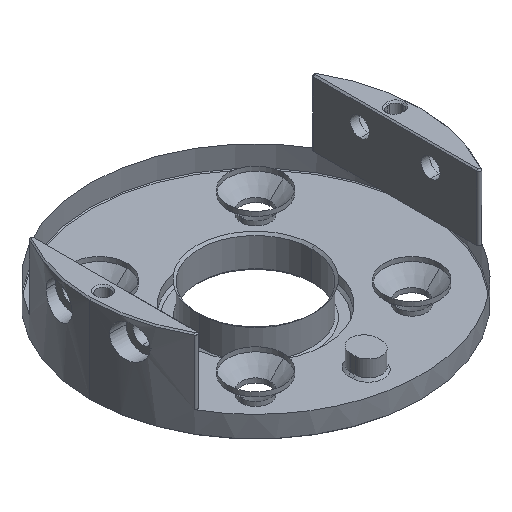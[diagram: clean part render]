
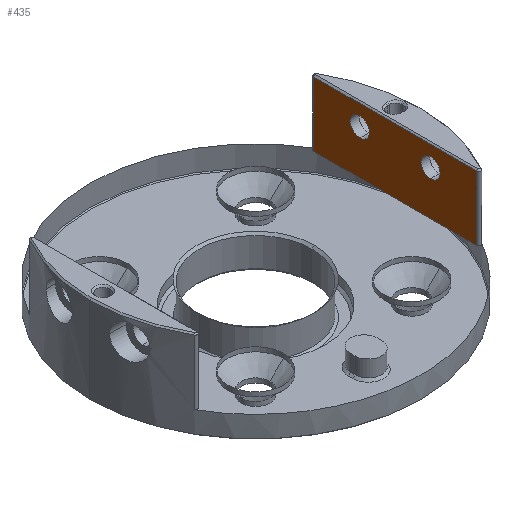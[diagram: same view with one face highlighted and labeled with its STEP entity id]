
A CAD part, isometric view. The second image highlights one B-rep face of the part: STEP entity #435.
In plain terms, the highlighted planar face has unit normal (-1, 0, 0).
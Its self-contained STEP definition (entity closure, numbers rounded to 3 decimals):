
#146 = EDGE_LOOP ( 'NONE', ( #594, #157 ) ) ;
#152 = EDGE_CURVE ( 'NONE', #698, #1493, #1818, .T. ) ;
#157 = ORIENTED_EDGE ( 'NONE', *, *, #954, .T. ) ;
#241 = LINE ( 'NONE', #505, #617 ) ;
#363 = CARTESIAN_POINT ( 'NONE',  ( 31.59, 20.269, 5. ) ) ;
#435 = ADVANCED_FACE ( 'NONE', ( #2393, #2153, #3154 ), #2180, .F. ) ;
#500 = AXIS2_PLACEMENT_3D ( 'NONE', #1026, #2275, #1508 ) ;
#505 = CARTESIAN_POINT ( 'NONE',  ( 31.59, 18.418, 19.6 ) ) ;
#575 = DIRECTION ( 'NONE',  ( 0., 0., -1. ) ) ;
#594 = ORIENTED_EDGE ( 'NONE', *, *, #880, .T. ) ;
#617 = VECTOR ( 'NONE', #1350, 1000. ) ;
#698 = VERTEX_POINT ( 'NONE', #1388 ) ;
#716 = CIRCLE ( 'NONE', #1509, 2.15 ) ;
#755 = VERTEX_POINT ( 'NONE', #1639 ) ;
#802 = CARTESIAN_POINT ( 'NONE',  ( 31.59, 18.418, 5. ) ) ;
#870 = CARTESIAN_POINT ( 'NONE',  ( 31.59, -8., 12.85 ) ) ;
#880 = EDGE_CURVE ( 'NONE', #755, #3189, #1032, .T. ) ;
#951 = CARTESIAN_POINT ( 'NONE',  ( 31.59, -18.418, 5. ) ) ;
#954 = EDGE_CURVE ( 'NONE', #3189, #755, #716, .T. ) ;
#1003 = CARTESIAN_POINT ( 'NONE',  ( 31.59, 8., 15. ) ) ;
#1026 = CARTESIAN_POINT ( 'NONE',  ( 31.59, -8., 15. ) ) ;
#1032 = CIRCLE ( 'NONE', #3027, 2.15 ) ;
#1041 = ORIENTED_EDGE ( 'NONE', *, *, #2571, .T. ) ;
#1073 = VECTOR ( 'NONE', #1157, 1000. ) ;
#1101 = EDGE_LOOP ( 'NONE', ( #2655, #2047 ) ) ;
#1157 = DIRECTION ( 'NONE',  ( 0., -1., 0. ) ) ;
#1340 = EDGE_CURVE ( 'NONE', #1854, #2215, #241, .T. ) ;
#1350 = DIRECTION ( 'NONE',  ( 0., 1., 0. ) ) ;
#1369 = CARTESIAN_POINT ( 'NONE',  ( 31.59, -18.418, 19.9 ) ) ;
#1388 = CARTESIAN_POINT ( 'NONE',  ( 31.59, -8., 17.15 ) ) ;
#1393 = CARTESIAN_POINT ( 'NONE',  ( 31.59, -8., 15. ) ) ;
#1493 = VERTEX_POINT ( 'NONE', #870 ) ;
#1508 = DIRECTION ( 'NONE',  ( 0., 0., -1. ) ) ;
#1509 = AXIS2_PLACEMENT_3D ( 'NONE', #2009, #3009, #1747 ) ;
#1562 = VERTEX_POINT ( 'NONE', #951 ) ;
#1639 = CARTESIAN_POINT ( 'NONE',  ( 31.59, 8., 12.85 ) ) ;
#1649 = DIRECTION ( 'NONE',  ( 0., 0., 1. ) ) ;
#1655 = CARTESIAN_POINT ( 'NONE',  ( 31.59, 20.269, 19.9 ) ) ;
#1658 = CARTESIAN_POINT ( 'NONE',  ( 31.59, 8., 17.15 ) ) ;
#1673 = DIRECTION ( 'NONE',  ( 1., 0., 0. ) ) ;
#1747 = DIRECTION ( 'NONE',  ( 0., 0., -1. ) ) ;
#1818 = CIRCLE ( 'NONE', #500, 2.15 ) ;
#1854 = VERTEX_POINT ( 'NONE', #2168 ) ;
#1857 = LINE ( 'NONE', #363, #1073 ) ;
#1862 = EDGE_CURVE ( 'NONE', #1493, #698, #2724, .T. ) ;
#1876 = AXIS2_PLACEMENT_3D ( 'NONE', #1655, #1673, #2656 ) ;
#1898 = LINE ( 'NONE', #1369, #2336 ) ;
#1920 = DIRECTION ( 'NONE',  ( 0., 0., -1. ) ) ;
#1941 = ORIENTED_EDGE ( 'NONE', *, *, #2584, .T. ) ;
#2009 = CARTESIAN_POINT ( 'NONE',  ( 31.59, 8., 15. ) ) ;
#2025 = DIRECTION ( 'NONE',  ( 1., 0., 0. ) ) ;
#2047 = ORIENTED_EDGE ( 'NONE', *, *, #152, .T. ) ;
#2151 = AXIS2_PLACEMENT_3D ( 'NONE', #1393, #2154, #1920 ) ;
#2153 = FACE_BOUND ( 'NONE', #146, .T. ) ;
#2154 = DIRECTION ( 'NONE',  ( 1., 0., 0. ) ) ;
#2168 = CARTESIAN_POINT ( 'NONE',  ( 31.59, -18.418, 19.6 ) ) ;
#2180 = PLANE ( 'NONE',  #1876 ) ;
#2215 = VERTEX_POINT ( 'NONE', #3111 ) ;
#2221 = ORIENTED_EDGE ( 'NONE', *, *, #1340, .T. ) ;
#2275 = DIRECTION ( 'NONE',  ( 1., 0., 0. ) ) ;
#2336 = VECTOR ( 'NONE', #1649, 1000. ) ;
#2388 = VERTEX_POINT ( 'NONE', #802 ) ;
#2393 = FACE_BOUND ( 'NONE', #1101, .T. ) ;
#2491 = VECTOR ( 'NONE', #575, 1000. ) ;
#2526 = EDGE_LOOP ( 'NONE', ( #2891, #2221, #1041, #1941 ) ) ;
#2527 = EDGE_CURVE ( 'NONE', #1562, #1854, #1898, .T. ) ;
#2571 = EDGE_CURVE ( 'NONE', #2215, #2388, #2830, .T. ) ;
#2584 = EDGE_CURVE ( 'NONE', #2388, #1562, #1857, .T. ) ;
#2655 = ORIENTED_EDGE ( 'NONE', *, *, #1862, .T. ) ;
#2656 = DIRECTION ( 'NONE',  ( 0., 0., -1. ) ) ;
#2724 = CIRCLE ( 'NONE', #2151, 2.15 ) ;
#2830 = LINE ( 'NONE', #3122, #2491 ) ;
#2891 = ORIENTED_EDGE ( 'NONE', *, *, #2527, .T. ) ;
#3009 = DIRECTION ( 'NONE',  ( 1., 0., 0. ) ) ;
#3027 = AXIS2_PLACEMENT_3D ( 'NONE', #1003, #2025, #3224 ) ;
#3111 = CARTESIAN_POINT ( 'NONE',  ( 31.59, 18.418, 19.6 ) ) ;
#3122 = CARTESIAN_POINT ( 'NONE',  ( 31.59, 18.418, 19.9 ) ) ;
#3154 = FACE_OUTER_BOUND ( 'NONE', #2526, .T. ) ;
#3189 = VERTEX_POINT ( 'NONE', #1658 ) ;
#3224 = DIRECTION ( 'NONE',  ( 0., 0., -1. ) ) ;
